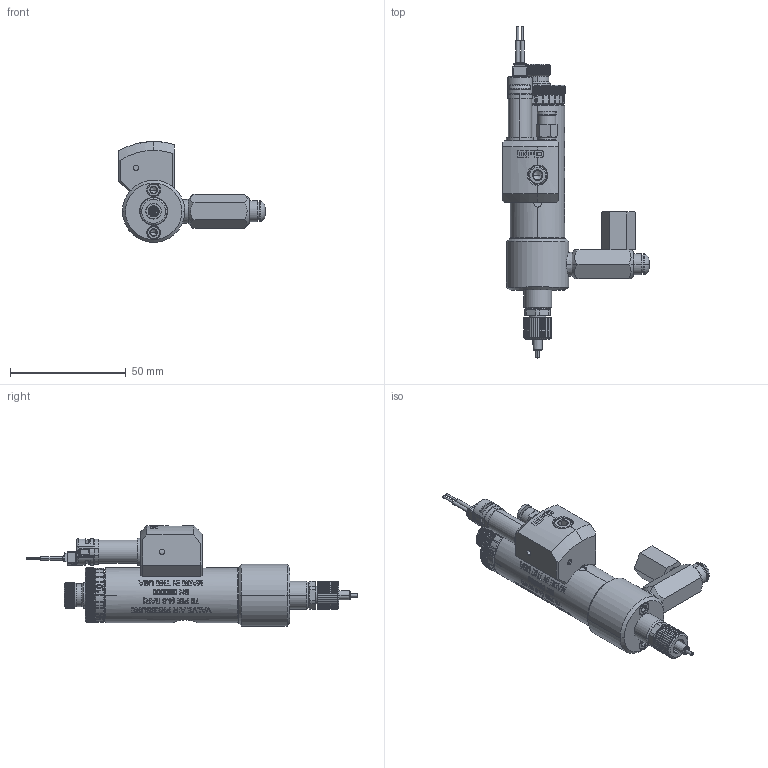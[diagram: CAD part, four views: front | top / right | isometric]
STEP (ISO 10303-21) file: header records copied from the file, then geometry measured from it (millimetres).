
FILE_DESCRIPTION (( 'STEP AP214' ), '1' );
FILE_NAME ('NORDSONEFD-7015585 VALVE NEEDLE 741MD SS BP W BACKPACK.STEP', '2019-01-23T10:40:48', ( '' ), ( '' ), 'SwSTEP 2.0', 'SolidWorks 2018', '' );
FILE_SCHEMA (( 'AUTOMOTIVE_DESIGN' ));
Length unit declared in the file: inch
Products named in the file (1): NORDSONEFD-7015585 VALVE NEEDLE 741MD SS BP W BACKPACK
Bounding box: 63.42 x 143.51 x 43.61 mm (x, y, z)
Volume: 62895.7 mm3; surface area: 22511.2 mm2
Topology: 2 solids, 2 shells, 3531 faces, 9510 edges, 6092 vertices
Faces by surface type: plane 1659, cylinder 937, bspline 537, cone 201, torus 163, sphere 34
Entity records: 144271 total; most frequent: CARTESIAN_POINT 52034, ORIENTED_EDGE 18940, DIRECTION 15108, EDGE_CURVE 9470, VERTEX_POINT 6088, AXIS2_PLACEMENT_3D 5318, LINE 4472, VECTOR 4472
